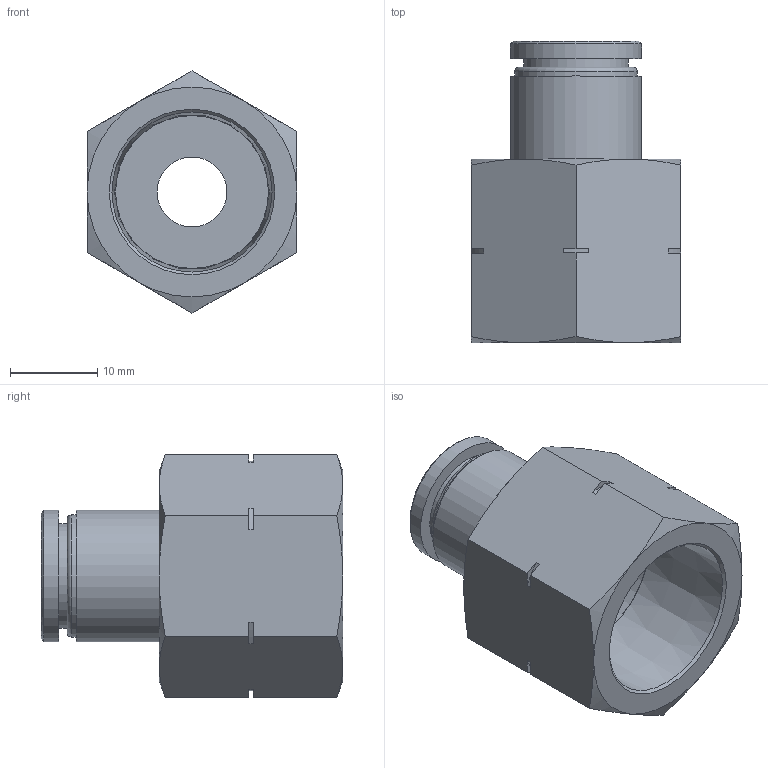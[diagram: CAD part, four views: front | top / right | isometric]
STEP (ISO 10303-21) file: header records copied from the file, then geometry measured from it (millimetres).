
FILE_DESCRIPTION(/* description */ (''),/* implementation_level */ '2;1');
FILE_NAME(/* name */ 'LXH14 0010 N4.stp',/* time_stamp */ '2026-04-28T15:07:25+02:00',/* author */ ('freju'),/* organization */ (''),/* preprocessor_version */ 'ST-DEVELOPER v20.1',/* originating_system */ 'Autodesk Inventor 2026',/* authorisation */ '');
FILE_SCHEMA (('AUTOMOTIVE_DESIGN { 1 0 10303 214 3 1 1 }'));
Length unit declared in the file: millimetre
Products named in the file (1): LXH14 0010 N4
Bounding box: 24 x 34.5 x 27.71 mm (x, y, z)
Volume: 7584.8 mm3; surface area: 4755.7 mm2
Topology: 1 solids, 1 shells, 56 faces, 129 edges, 82 vertices
Faces by surface type: plane 27, cone 15, cylinder 13, torus 1
Full cylindrical faces by diameter (mm): 8 x1, 10 x1, 12 x1, 14 x1, 15 x2, 17.475 x1
Entity records: 1607 total; most frequent: CARTESIAN_POINT 316, DIRECTION 266, ORIENTED_EDGE 258, EDGE_CURVE 129, AXIS2_PLACEMENT_3D 104, VERTEX_POINT 82, EDGE_LOOP 65, LINE 58
